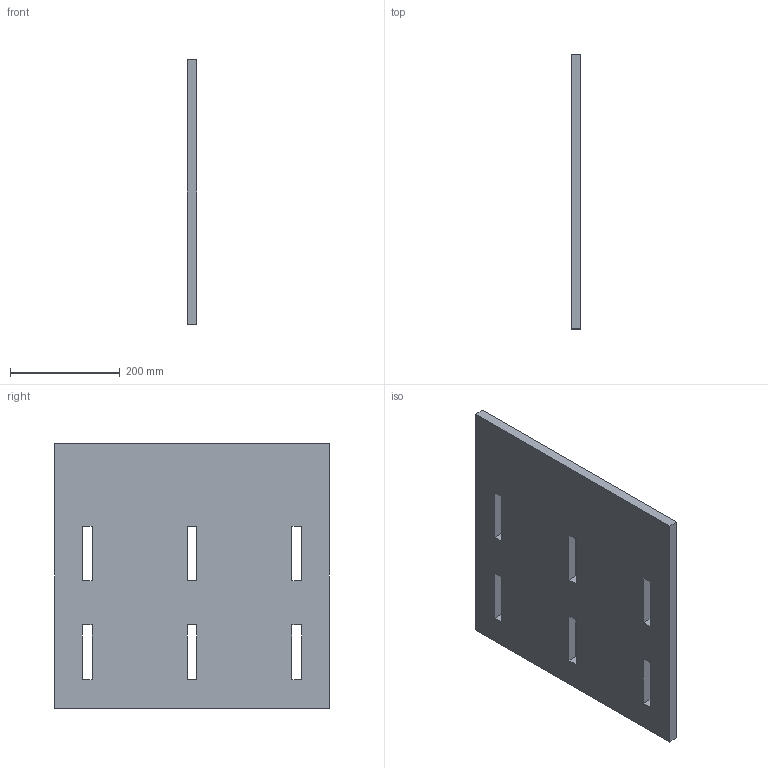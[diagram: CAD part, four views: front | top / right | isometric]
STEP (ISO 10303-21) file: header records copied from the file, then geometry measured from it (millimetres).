
FILE_DESCRIPTION(('Open CASCADE Model'),'2;1');
FILE_NAME('Open CASCADE Shape Model','2026-09-27T16:12:29',('Author'),( 'Open CASCADE'),'Open CASCADE STEP processor 7.9','Open CASCADE 7.9' ,'Unknown');
FILE_SCHEMA(('AUTOMOTIVE_DESIGN { 1 0 10303 214 1 1 1 1 }'));
Length unit declared in the file: millimetre
Products named in the file (1): Open CASCADE STEP translator 7.9 4
Bounding box: 18 x 500 x 482 mm (x, y, z)
Volume: 4141440 mm3; surface area: 521043.2 mm2
Topology: 1 solids, 1 shells, 30 faces, 84 edges, 56 vertices
Faces by surface type: plane 30
Entity records: 1978 total; most frequent: CARTESIAN_POINT 435, DIRECTION 218, ORIENTED_EDGE 168, PCURVE 168, DEFINITIONAL_REPRESENTATION 168, LINE 156, VECTOR 156, B_SPLINE_CURVE_WITH_KNOTS 96
